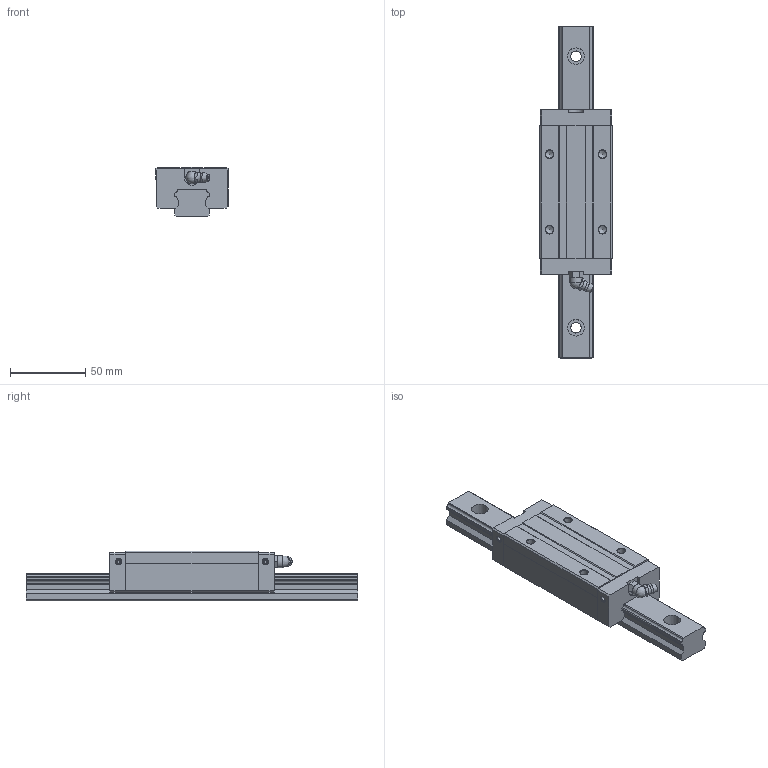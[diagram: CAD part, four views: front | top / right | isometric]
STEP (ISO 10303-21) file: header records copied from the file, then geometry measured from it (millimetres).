
FILE_DESCRIPTION(/* description */ (''),/* implementation_level */ '2;1');
FILE_NAME(/* name */ 'SME25-LSB',/* time_stamp */ '2008-10-06T09:43:24+08:00',/* author */ (''),/* organization */ (''),/* preprocessor_version */ 'ST-DEVELOPER v11',/* originating_system */ 'UGS - NX 5.0',/* authorisation */ '');
FILE_SCHEMA (('AUTOMOTIVE_DESIGN { 1 0 10303 214 1 1 1 1 }'));
Length unit declared in the file: millimetre
Products named in the file (1): SME25LSB_UG
Bounding box: 48 x 220 x 33 mm (x, y, z)
Volume: 190341.6 mm3; surface area: 43253.2 mm2
Topology: 3 solids, 3 shells, 175 faces, 455 edges, 300 vertices
Faces by surface type: plane 103, cylinder 49, cone 13, torus 7, sphere 2, bspline 1
Full cylindrical faces by diameter (mm): 2 x4, 3.3 x4, 5.2 x4, 6.5 x2, 7 x4, 8 x1, 11 x4
Entity records: 5397 total; most frequent: CARTESIAN_POINT 1026, DIRECTION 848, ORIENTED_EDGE 790, EDGE_CURVE 395, AXIS2_PLACEMENT_3D 298, VERTEX_POINT 284, LINE 252, VECTOR 252
